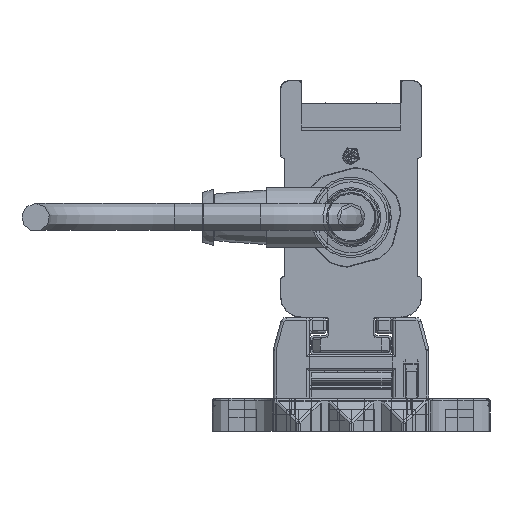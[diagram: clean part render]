
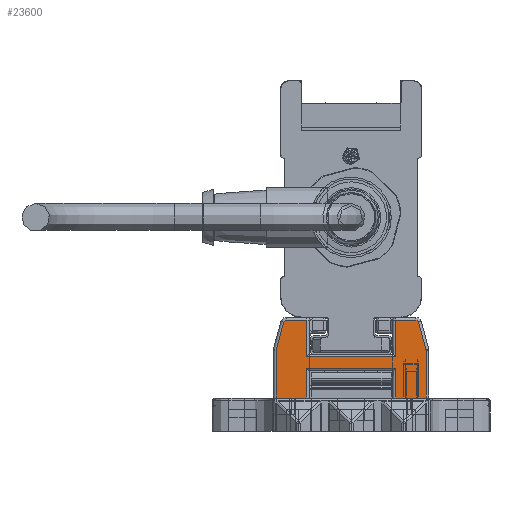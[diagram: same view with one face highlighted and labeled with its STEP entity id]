
A CAD part, left-side view. The second image highlights one B-rep face of the part: STEP entity #23600.
In plain terms, the highlighted planar face has unit normal (-1, 0, 0).
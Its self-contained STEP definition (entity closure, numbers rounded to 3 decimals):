
#23600=ADVANCED_FACE('', (#23610), #23620, .T.);
#189050=AXIS2_PLACEMENT_3D('Ax2Pl3d', #189060, #189070, #189080);
#189290=AXIS2_PLACEMENT_3D('Ax2Pl3d', #189300, #189310, #189320);
#194170=AXIS2_PLACEMENT_3D('Ax2Pl3d', #194180, #194190, #194200);
#199250=AXIS2_PLACEMENT_3D('Ax2Pl3d', #199260, #199270, #199280);
#208930=AXIS2_PLACEMENT_3D('Ax2Pl3d', #208940, #208950, #208960);
#844600=CARTESIAN_POINT('', (-747.669,-6406.345,
331.37));
#189060=CARTESIAN_POINT('HicPkt', (-747.669,-6405.379,
331.111));
#844610=CARTESIAN_POINT('', (-747.669,-6406.379,331.111)
);
#844620=CARTESIAN_POINT('', (-747.669,-6405.037,
336.255));
#844640=CARTESIAN_POINT('', (-747.669,-6405.037,
336.255));
#844670=CARTESIAN_POINT('', (-747.669,-6404.554,
336.625));
#189300=CARTESIAN_POINT('HicPkt', (-747.669,-6404.554,
336.125));
#844890=CARTESIAN_POINT('', (-747.669,-6406.379,322.625)
);
#844900=CARTESIAN_POINT('', (-747.669,-6400.881,322.625)
);
#844910=CARTESIAN_POINT('', (-747.669,-6400.881,322.625)
);
#844990=CARTESIAN_POINT('', (-747.669,-6384.881,322.625)
);
#845000=CARTESIAN_POINT('', (-747.669,-6379.383,322.625)
);
#845010=CARTESIAN_POINT('', (-747.669,-6379.383,322.625)
);
#194180=CARTESIAN_POINT('HicPkt', (-747.669,-6381.209,
336.125));
#847480=CARTESIAN_POINT('', (-747.669,-6380.726,
336.255));
#847490=CARTESIAN_POINT('', (-747.669,-6381.209,
336.625));
#847500=CARTESIAN_POINT('', (-747.669,-6400.881,
330.025));
#847510=CARTESIAN_POINT('', (-747.669,-6384.881,
330.025));
#847520=CARTESIAN_POINT('', (-747.669,-6400.881,
330.025));
#847680=CARTESIAN_POINT('', (-747.669,-6400.881,
328.005));
#847690=CARTESIAN_POINT('', (-747.669,-6384.881,
328.005));
#847700=CARTESIAN_POINT('', (-747.669,-6384.881,
328.005));
#847710=CARTESIAN_POINT('', (-747.669,-6400.881,
328.005));
#847730=CARTESIAN_POINT('', (-747.669,-6384.881,322.625)
);
#847740=CARTESIAN_POINT('', (-747.669,-6384.881,
330.025));
#847750=CARTESIAN_POINT('', (-747.669,-6384.881,
336.625));
#848600=CARTESIAN_POINT('', (-747.669,-6384.881,
336.625));
#848610=CARTESIAN_POINT('', (-747.669,-6380.726,
336.255));
#848620=CARTESIAN_POINT('', (-747.669,-6379.417,
331.37));
#848810=CARTESIAN_POINT('', (-747.669,-6379.383,331.111)
);
#848820=CARTESIAN_POINT('', (-747.669,-6379.383,331.111)
);
#199260=CARTESIAN_POINT('HicPkt', (-747.669,-6380.383,
331.111));
#849630=CARTESIAN_POINT('', (-747.669,-6406.379,331.111)
);
#208940=CARTESIAN_POINT('HicPkt', (-747.669,-6404.554,
336.625));
#851430=CARTESIAN_POINT('', (-747.669,-6400.881,
336.625));
#851440=CARTESIAN_POINT('', (-747.669,-6400.881,
336.625));
#851450=CARTESIAN_POINT('', (-747.669,-6400.881,
336.625));
#981330=CIRCLE('Circle', #189050, 1.);
#981370=CIRCLE('Circle', #189290, 0.5);
#981950=CIRCLE('Circle', #194170, 0.5);
#982480=CIRCLE('Circle', #199250, 1.);
#189070=DIRECTION('Axis', (-1.,0.,
0.));
#189080=DIRECTION('RefDirection', (0.,
0.,-1.));
#1367870=DIRECTION('', (0.,0.259,
0.966));
#189310=DIRECTION('Axis', (-1.,0.,
0.));
#189320=DIRECTION('RefDirection', (0.,
0.,-1.));
#1367980=DIRECTION('', (0.,1.,0.));
#1368020=DIRECTION('', (0.,1.,0.));
#194190=DIRECTION('Axis', (1.,0.,
0.));
#194200=DIRECTION('RefDirection', (0.,
0.,-1.));
#1369210=DIRECTION('', (0.,-1.,0.));
#1369310=DIRECTION('', (0.,1.,0.));
#1369320=DIRECTION('', (0.,0.,1.));
#1369340=DIRECTION('', (0.,0.,-1.));
#1369350=DIRECTION('', (0.,0.,-1.));
#1369780=DIRECTION('', (0.,-1.,0.))
;
#1369790=DIRECTION('', (0.,-0.259,0.966));
#1369880=DIRECTION('', (0.,0.,1.));
#199270=DIRECTION('Axis', (1.,0.,
0.));
#199280=DIRECTION('RefDirection', (0.,
0.,-1.));
#1370250=DIRECTION('', (0.,0.,1.));
#208950=DIRECTION('Axis', (-1.,0.,
0.));
#208960=DIRECTION('RefDirection', (0.,
0.,-1.));
#1371090=DIRECTION('', (0.,1.,0.));
#1371100=DIRECTION('', (0.,0.,1.));
#1456860=EDGE_CURVE('', #1456870, #1456850, #981330, .T.);
#1456920=EDGE_CURVE('', #1456850, #1456900, #1456930, .T.);
#1456990=EDGE_CURVE('', #1456900, #1456980, #981370, .T.);
#1457440=EDGE_CURVE('', #1457430, #1457450, #1457460, .T.);
#1457600=EDGE_CURVE('', #1457590, #1457610, #1457620, .T.);
#1461960=EDGE_CURVE('', #1461970, #1461980, #981950, .T.);
#1462010=EDGE_CURVE('', #1462020, #1462030, #1462040, .T.);
#1462380=EDGE_CURVE('', #1462360, #1462390, #1462400, .T.);
#1462430=EDGE_CURVE('', #1457450, #1462360, #1462440, .T.);
#1462470=EDGE_CURVE('', #1462390, #1457590, #1462480, .T.);
#1462490=EDGE_CURVE('', #1462500, #1462020, #1462510, .T.);
#1464330=EDGE_CURVE('', #1461980, #1462500, #1464340, .T.);
#1464400=EDGE_CURVE('', #1464410, #1461970, #1464420, .T.);
#1464840=EDGE_CURVE('', #1457610, #1464850, #1464860, .T.);
#1464880=EDGE_CURVE('', #1464850, #1464410, #982480, .T.);
#1466590=EDGE_CURVE('', #1457430, #1456870, #1466600, .T.);
#1470400=EDGE_CURVE('', #1456980, #1470410, #1470420, .T.);
#1470430=EDGE_CURVE('', #1462030, #1470410, #1470440, .T.);
#1750440=EDGE_LOOP('Edge_loop', (#1750450,#1750460,#1750470,#1750480,
#1750490,#1750500,#1750510,#1750520,#1750530,#1750540,#1750550,
#1750560,#1750570,#1750580,#1750590,#1750600,#1750610,#1750620));
#23610=FACE_OUTER_BOUND('Face_outer_bound', #1750440, .T.);
#1456930=LINE('Line', #844640, #2017940);
#1457460=LINE('Line', #844900, #2018050);
#1457620=LINE('Line', #845000, #2018090);
#1462040=LINE('Line', #847500, #2019280);
#1462400=LINE('Line', #847690, #2019380);
#1462440=LINE('Line', #847710, #2019390);
#1462480=LINE('Line', #847730, #2019410);
#1462510=LINE('Line', #847740, #2019420);
#1464340=LINE('Line', #848600, #2019850);
#1464420=LINE('Line', #848610, #2019860);
#1464860=LINE('Line', #848810, #2019950);
#1466600=LINE('Line', #849630, #2020320);
#1470420=LINE('Line', #851430, #2021160);
#1470440=LINE('Line', #851450, #2021170);
#1750450=ORIENTED_EDGE('', *, *, #1470400, .T.);
#1750460=ORIENTED_EDGE('', *, *, #1470430, .F.);
#1750470=ORIENTED_EDGE('', *, *, #1462010, .F.);
#1750480=ORIENTED_EDGE('', *, *, #1462490, .F.);
#1750490=ORIENTED_EDGE('', *, *, #1464330, .F.);
#1750500=ORIENTED_EDGE('', *, *, #1461960, .F.);
#1750510=ORIENTED_EDGE('', *, *, #1464400, .F.);
#1750520=ORIENTED_EDGE('', *, *, #1464880, .F.);
#1750530=ORIENTED_EDGE('', *, *, #1464840, .F.);
#1750540=ORIENTED_EDGE('', *, *, #1457600, .F.);
#1750550=ORIENTED_EDGE('', *, *, #1462470, .F.);
#1750560=ORIENTED_EDGE('', *, *, #1462380, .F.);
#1750570=ORIENTED_EDGE('', *, *, #1462430, .F.);
#1750580=ORIENTED_EDGE('', *, *, #1457440, .F.);
#1750590=ORIENTED_EDGE('', *, *, #1466590, .T.);
#1750600=ORIENTED_EDGE('', *, *, #1456860, .T.);
#1750610=ORIENTED_EDGE('', *, *, #1456920, .T.);
#1750620=ORIENTED_EDGE('', *, *, #1456990, .T.);
#23620=PLANE('Plane', #208930);
#2017940=VECTOR('', #1367870, 5.057);
#2018050=VECTOR('', #1367980, 5.498);
#2018090=VECTOR('', #1368020, 5.498);
#2019280=VECTOR('', #1369210, 16.);
#2019380=VECTOR('', #1369310, 16.);
#2019390=VECTOR('', #1369320, 5.38);
#2019410=VECTOR('', #1369340, 5.38);
#2019420=VECTOR('', #1369350, 6.6);
#2019850=VECTOR('', #1369780, 3.672);
#2019860=VECTOR('', #1369790, 5.057);
#2019950=VECTOR('', #1369880, 8.486);
#2020320=VECTOR('', #1370250, 8.486);
#2021160=VECTOR('', #1371090, 3.672);
#2021170=VECTOR('', #1371100, 6.6);
#1456850=VERTEX_POINT('', #844600);
#1456870=VERTEX_POINT('', #844610);
#1456900=VERTEX_POINT('', #844620);
#1456980=VERTEX_POINT('', #844670);
#1457430=VERTEX_POINT('', #844890);
#1457450=VERTEX_POINT('', #844910);
#1457590=VERTEX_POINT('', #844990);
#1457610=VERTEX_POINT('', #845010);
#1461970=VERTEX_POINT('', #847480);
#1461980=VERTEX_POINT('', #847490);
#1462020=VERTEX_POINT('', #847510);
#1462030=VERTEX_POINT('', #847520);
#1462360=VERTEX_POINT('', #847680);
#1462390=VERTEX_POINT('', #847700);
#1462500=VERTEX_POINT('', #847750);
#1464410=VERTEX_POINT('', #848620);
#1464850=VERTEX_POINT('', #848820);
#1470410=VERTEX_POINT('', #851440);
